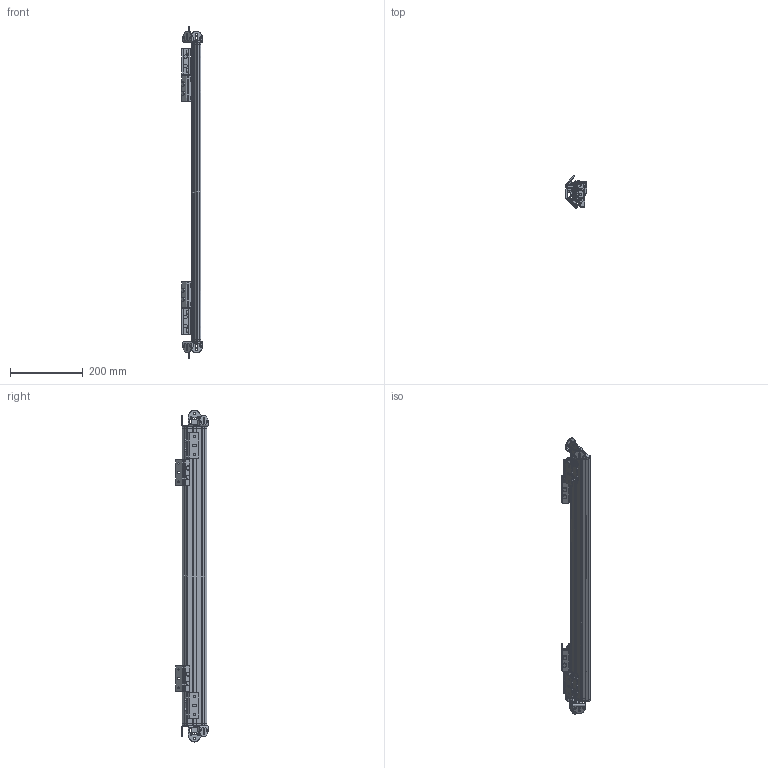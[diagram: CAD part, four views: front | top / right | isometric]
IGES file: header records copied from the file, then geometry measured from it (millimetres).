
Global section: file name: M:\acadjob\Spiegel\UM60-Spiegel\DXF-IGES-Daten für Kunden\IGES\UM60_750.igs; native system: AutoCAD-15.05s (LMS Tech) (Microsoft Windows NT Version 5.1 (x86)); preprocessor: Autodesk IGES Translator R2000i (Jul 31 2000) from Autodesk, Inc.; date: 20070307.113813; units: millimetre
Bounding box: 59.88 x 89.1 x 910.1 mm (x, y, z)
Surface area: 326941.3 mm2 (no closed solid volume)
Topology: 0 solids, 0 shells, 805 faces, 19482 edges, 19482 vertices
Faces by surface type: bspline 805
